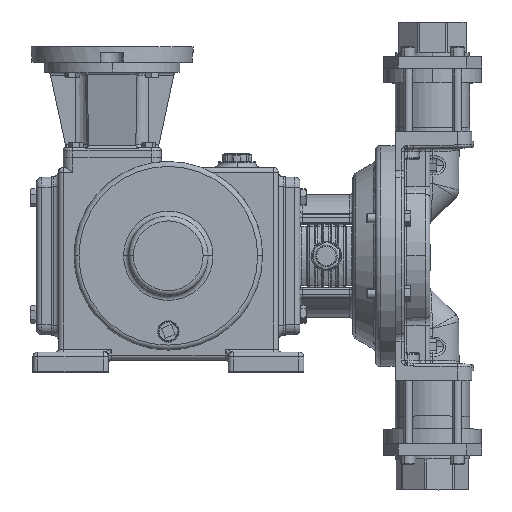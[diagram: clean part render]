
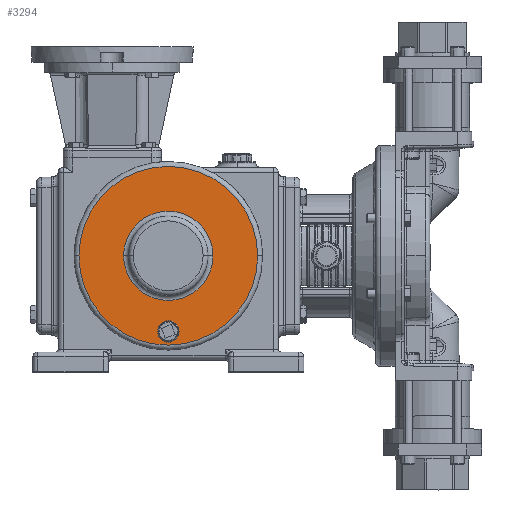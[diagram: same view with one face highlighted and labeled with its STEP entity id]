
A CAD part, top view. The second image highlights one B-rep face of the part: STEP entity #3294.
In plain terms, the highlighted planar face has unit normal (0, 0, 1).
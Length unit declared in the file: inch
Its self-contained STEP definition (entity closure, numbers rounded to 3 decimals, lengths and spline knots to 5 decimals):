
#2878 = CARTESIAN_POINT ( 'NONE',  ( 1.02362, 0., 2.3622 ) ) ;
#3294 = ADVANCED_FACE ( 'NONE', ( #79488, #12074, #51632 ), #115414, .T. ) ;
#4001 = DIRECTION ( 'NONE',  ( 0., 0., 1. ) ) ;
#7858 = ORIENTED_EDGE ( 'NONE', *, *, #60740, .F. ) ;
#9385 = AXIS2_PLACEMENT_3D ( 'NONE', #117877, #4001, #42375 ) ;
#11277 = AXIS2_PLACEMENT_3D ( 'NONE', #34820, #83049, #110905 ) ;
#12074 = FACE_OUTER_BOUND ( 'NONE', #83925, .T. ) ;
#12291 = ORIENTED_EDGE ( 'NONE', *, *, #35439, .T. ) ;
#14644 = AXIS2_PLACEMENT_3D ( 'NONE', #26739, #72537, #16844 ) ;
#16844 = DIRECTION ( 'NONE',  ( 1., 0., 0. ) ) ;
#19286 = EDGE_LOOP ( 'NONE', ( #7858, #92906 ) ) ;
#20938 = EDGE_LOOP ( 'NONE', ( #30282, #94704 ) ) ;
#22742 = VERTEX_POINT ( 'NONE', #32278 ) ;
#23262 = CIRCLE ( 'NONE', #92441, 3.58268 ) ;
#26739 = CARTESIAN_POINT ( 'NONE',  ( 1.02362, 0., 2.3622 ) ) ;
#28022 = AXIS2_PLACEMENT_3D ( 'NONE', #60913, #51612, #99259 ) ;
#30282 = ORIENTED_EDGE ( 'NONE', *, *, #42615, .T. ) ;
#30379 = AXIS2_PLACEMENT_3D ( 'NONE', #95173, #48136, #67300 ) ;
#32278 = CARTESIAN_POINT ( 'NONE',  ( 0.59015, -3.0315, 2.3622 ) ) ;
#34820 = CARTESIAN_POINT ( 'NONE',  ( 1.02362, -3.0315, 2.3622 ) ) ;
#34981 = VERTEX_POINT ( 'NONE', #119217 ) ;
#35439 = EDGE_CURVE ( 'NONE', #77331, #34981, #23262, .T. ) ;
#40422 = CARTESIAN_POINT ( 'NONE',  ( -0.76772, 0., 2.3622 ) ) ;
#41686 = EDGE_CURVE ( 'NONE', #34981, #77331, #53794, .T. ) ;
#42375 = DIRECTION ( 'NONE',  ( 1., 0., 0. ) ) ;
#42615 = EDGE_CURVE ( 'NONE', #79118, #60624, #57663, .T. ) ;
#48136 = DIRECTION ( 'NONE',  ( 0., 0., 1. ) ) ;
#51612 = DIRECTION ( 'NONE',  ( 0., 0., -1. ) ) ;
#51632 = FACE_BOUND ( 'NONE', #20938, .T. ) ;
#53794 = CIRCLE ( 'NONE', #119010, 3.58268 ) ;
#53803 = CARTESIAN_POINT ( 'NONE',  ( 1.45709, -3.0315, 2.3622 ) ) ;
#54447 = EDGE_CURVE ( 'NONE', #60624, #79118, #62090, .T. ) ;
#56459 = CARTESIAN_POINT ( 'NONE',  ( 2.81496, 0., 2.3622 ) ) ;
#57663 = CIRCLE ( 'NONE', #28022, 1.79134 ) ;
#60316 = DIRECTION ( 'NONE',  ( 0., 0., 1. ) ) ;
#60624 = VERTEX_POINT ( 'NONE', #40422 ) ;
#60740 = EDGE_CURVE ( 'NONE', #104752, #22742, #100138, .T. ) ;
#60913 = CARTESIAN_POINT ( 'NONE',  ( 1.02362, 0., 2.3622 ) ) ;
#62090 = CIRCLE ( 'NONE', #14644, 1.79134 ) ;
#67300 = DIRECTION ( 'NONE',  ( 1., 0., 0. ) ) ;
#72537 = DIRECTION ( 'NONE',  ( 0., 0., -1. ) ) ;
#77331 = VERTEX_POINT ( 'NONE', #86418 ) ;
#78381 = DIRECTION ( 'NONE',  ( 1., 0., 0. ) ) ;
#79118 = VERTEX_POINT ( 'NONE', #56459 ) ;
#79488 = FACE_BOUND ( 'NONE', #19286, .T. ) ;
#79730 = CIRCLE ( 'NONE', #30379, 0.43347 ) ;
#83049 = DIRECTION ( 'NONE',  ( 0., 0., 1. ) ) ;
#83925 = EDGE_LOOP ( 'NONE', ( #85209, #12291 ) ) ;
#85209 = ORIENTED_EDGE ( 'NONE', *, *, #41686, .T. ) ;
#86418 = CARTESIAN_POINT ( 'NONE',  ( -2.55906, 0., 2.3622 ) ) ;
#92441 = AXIS2_PLACEMENT_3D ( 'NONE', #99901, #60316, #117874 ) ;
#92906 = ORIENTED_EDGE ( 'NONE', *, *, #97140, .F. ) ;
#94704 = ORIENTED_EDGE ( 'NONE', *, *, #54447, .T. ) ;
#95173 = CARTESIAN_POINT ( 'NONE',  ( 1.02362, -3.0315, 2.3622 ) ) ;
#97140 = EDGE_CURVE ( 'NONE', #22742, #104752, #79730, .T. ) ;
#99259 = DIRECTION ( 'NONE',  ( 1., 0., 0. ) ) ;
#99901 = CARTESIAN_POINT ( 'NONE',  ( 1.02362, 0., 2.3622 ) ) ;
#100138 = CIRCLE ( 'NONE', #11277, 0.43347 ) ;
#104752 = VERTEX_POINT ( 'NONE', #53803 ) ;
#110905 = DIRECTION ( 'NONE',  ( 1., 0., 0. ) ) ;
#114911 = DIRECTION ( 'NONE',  ( 0., 0., 1. ) ) ;
#115414 = PLANE ( 'NONE',  #9385 ) ;
#117874 = DIRECTION ( 'NONE',  ( 1., 0., 0. ) ) ;
#117877 = CARTESIAN_POINT ( 'NONE',  ( 1.02362, 0., 2.3622 ) ) ;
#119010 = AXIS2_PLACEMENT_3D ( 'NONE', #2878, #114911, #78381 ) ;
#119217 = CARTESIAN_POINT ( 'NONE',  ( 4.6063, 0., 2.3622 ) ) ;
